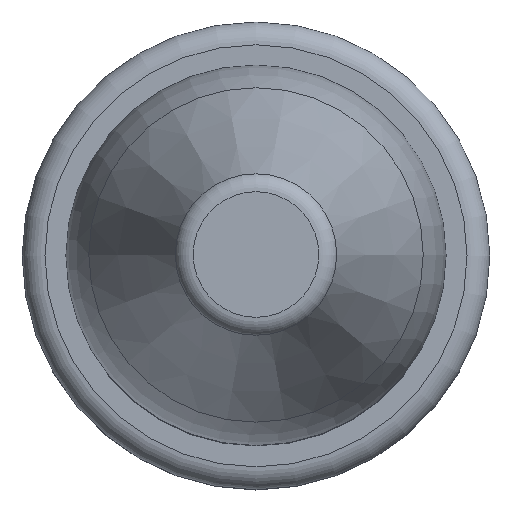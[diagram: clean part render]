
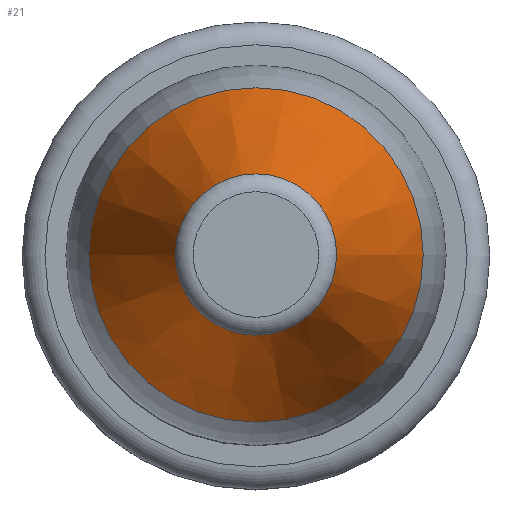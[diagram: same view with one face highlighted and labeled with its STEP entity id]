
A CAD part, top view. The second image highlights one B-rep face of the part: STEP entity #21.
In plain terms, the highlighted conical face has half-angle 20 degrees and reference radius 5.584 mm.
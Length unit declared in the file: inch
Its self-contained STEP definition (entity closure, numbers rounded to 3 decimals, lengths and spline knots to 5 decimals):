
#3 = VERTEX_POINT ( 'NONE', #146 ) ;
#13 = EDGE_CURVE ( 'NONE', #3, #3, #160, .T. ) ;
#21 = ADVANCED_FACE ( 'NONE', ( #88, #162 ), #38, .T. ) ;
#23 = CIRCLE ( 'NONE', #168, 0.21985 ) ;
#25 = DIRECTION ( 'NONE',  ( 0., 0., 1. ) ) ;
#38 = CONICAL_SURFACE ( 'NONE', #174, 0.21985, 0.349 ) ;
#43 = CARTESIAN_POINT ( 'NONE',  ( 0., 0., 0.89601 ) ) ;
#50 = EDGE_LOOP ( 'NONE', ( #137 ) ) ;
#51 = DIRECTION ( 'NONE',  ( 1., 0., 0. ) ) ;
#67 = AXIS2_PLACEMENT_3D ( 'NONE', #68, #213, #51 ) ;
#68 = CARTESIAN_POINT ( 'NONE',  ( 0., 0., 1.20855 ) ) ;
#88 = FACE_BOUND ( 'NONE', #101, .T. ) ;
#90 = DIRECTION ( 'NONE',  ( 0., 0., -1. ) ) ;
#101 = EDGE_LOOP ( 'NONE', ( #208 ) ) ;
#111 = CARTESIAN_POINT ( 'NONE',  ( 0.21985, 0., 0.89601 ) ) ;
#117 = DIRECTION ( 'NONE',  ( 1., 0., 0. ) ) ;
#124 = EDGE_CURVE ( 'NONE', #199, #199, #23, .T. ) ;
#137 = ORIENTED_EDGE ( 'NONE', *, *, #124, .T. ) ;
#143 = CARTESIAN_POINT ( 'NONE',  ( 0., 0., 0.89601 ) ) ;
#146 = CARTESIAN_POINT ( 'NONE',  ( 0.10609, 0., 1.20855 ) ) ;
#159 = DIRECTION ( 'NONE',  ( -1., 0., 0. ) ) ;
#160 = CIRCLE ( 'NONE', #67, 0.10609 ) ;
#162 = FACE_OUTER_BOUND ( 'NONE', #50, .T. ) ;
#168 = AXIS2_PLACEMENT_3D ( 'NONE', #43, #25, #117 ) ;
#174 = AXIS2_PLACEMENT_3D ( 'NONE', #143, #90, #159 ) ;
#199 = VERTEX_POINT ( 'NONE', #111 ) ;
#208 = ORIENTED_EDGE ( 'NONE', *, *, #13, .F. ) ;
#213 = DIRECTION ( 'NONE',  ( 0., 0., 1. ) ) ;
